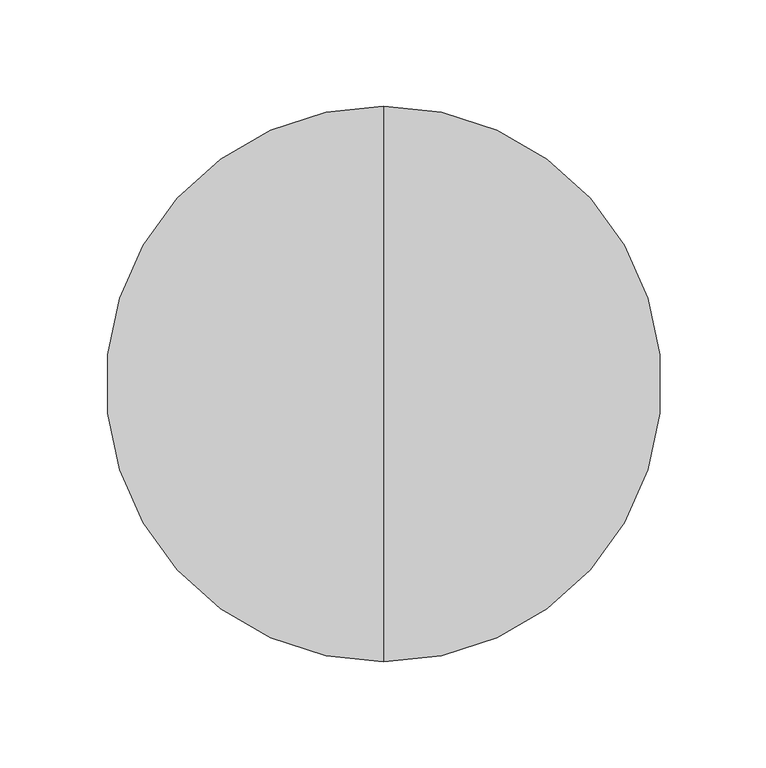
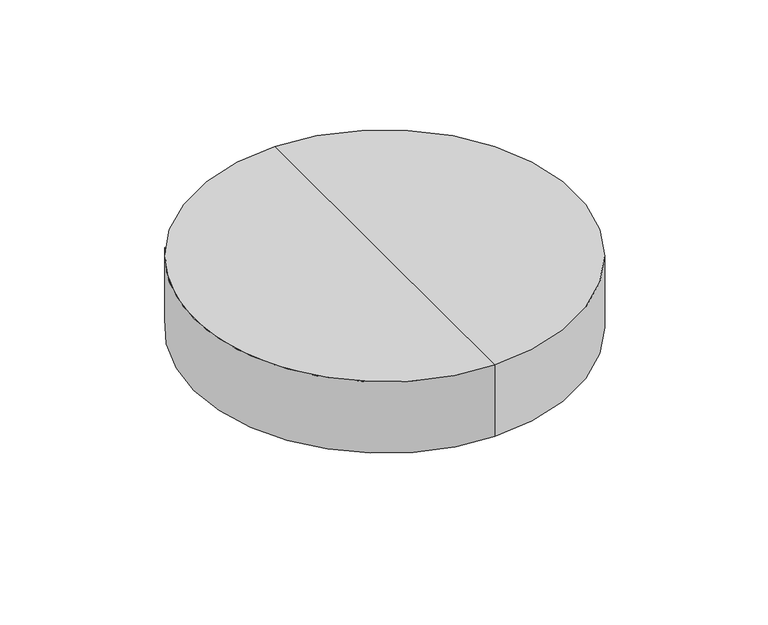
"""IFC4 building model written with IfcOpenShell, lengths in millimetres: light fixture geometry, LF_ОП_ТЛ : ДБО85_16_001_16Вт."""

from ifc_helpers import new_model, si_unit, point, frame, origin, place, context, project, spatial, circle_curve, ellipse_curve, trimmed, source, transform, mapped, element, save
from ifc_brep_helpers import plane_surface, cylinder_surface, revolved_surface, advanced_brep


def light_fixture_b0669a9f(model_context):
    return source(origin(), model_context, "Body", "AdvancedBrep", [
        advanced_brep(
        [(0.0, -131.0, -52.0), (0.0, 131.0, -52.0), (0.0, 0.0, -82.0), (0.0, -131.0, 0.0), (0.0, 131.0, 0.0), (0.0, 0.0, 0.0)],
        [
            (0, 1, circle_curve(frame((0.0, 0.0, -52.0), z_axis=(0.0, 0.0, -1.0), x_axis=(0.0, 1.0, 0.0)), 131.0)),
            (1, 2, circle_curve(frame((0.0, 3.6788471, 202.9523676), z_axis=(-1.0, 0.0, 0.0), x_axis=(0.0, 1.0, 0.0)), 284.9761143)),
            (2, 0, circle_curve(frame((0.0, -3.6788471, 202.9523676), z_axis=(-1.0, 0.0, 0.0), x_axis=(0.0, -1.0, 0.0)), 284.9761143)),
            (1, 0, circle_curve(frame((0.0, 0.0, -52.0), z_axis=(0.0, 0.0, -1.0), x_axis=(0.0, 1.0, 0.0)), 131.0)),
            (3, 4, circle_curve(frame((0.0, 0.0, 0.0), z_axis=(0.0, 0.0, -1.0), x_axis=(0.0, 1.0, 0.0)), 131.0)),
            (4, 1),
            (0, 3),
            (4, 3, circle_curve(frame((0.0, 0.0, 0.0), z_axis=(0.0, 0.0, -1.0), x_axis=(0.0, 1.0, 0.0)), 131.0)),
            (5, 4),
            (3, 5),
        ],
        [
            revolved_surface(trimmed(ellipse_curve(frame((0.0, 3.6788471, 202.9523676), z_axis=(1.0, 0.0, 0.0), x_axis=(0.0, 1.0, 0.0)), 284.9761143, 284.9761143), [point((0.0, 0.0, -82.0))], [point((0.0, 131.0, -52.0))], True, "CARTESIAN"), (0.0, 0.0, 75.0), (0.0, 0.0, 1.0)),
            cylinder_surface(frame((0.0, 0.0, 75.0), z_axis=(0.0, 0.0, 1.0), x_axis=(0.0, 1.0, 0.0)), 131.0),
            plane_surface(frame((0.0, 0.0, 0.0), z_axis=(0.0, 0.0, 1.0), x_axis=(0.0, 1.0, 0.0))),
        ],
        [
            (0, [[1, 2, 3]]),
            (0, [[4, -3, -2]]),
            (1, [[5, 6, -1, 7]]),
            (1, [[8, -7, -4, -6]]),
            (2, [[9, -5, 10]]),
            (2, [[-10, -8, -9]]),
        ],
    ),
    ])


if __name__ == "__main__":
    model = new_model("IFC4")
    model_context = context("Model", 3, world=origin())
    ifc_project = project(units=[si_unit("LENGTHUNIT", "METRE", prefix="MILLI")], contexts=[model_context])
    site = spatial("IfcSite", under=ifc_project)
    building = spatial("IfcBuilding", under=site)
    placement = place(None, origin())
    light_fixture_shape = light_fixture_b0669a9f(model_context)
    element("IfcLightFixture", 1, ObjectType="LF_ОП_ТЛ : ДБО85_16_001_16Вт", at=placement, inside=building, context=model_context, shape_type="MappedRepresentation", body=[
        mapped(light_fixture_shape, transform((0.0, 0.0, 0.0), x_axis=(1.0, 0.0, 0.0), y_axis=(0.0, 1.0, 0.0), z_axis=(0.0, 0.0, 1.0))),
    ])
    save(model, "model.ifc")
